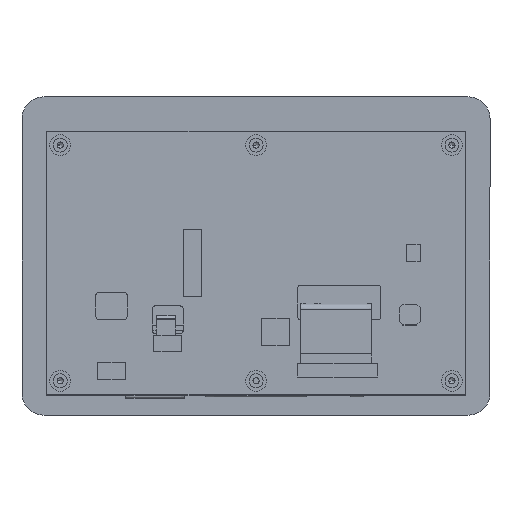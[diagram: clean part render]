
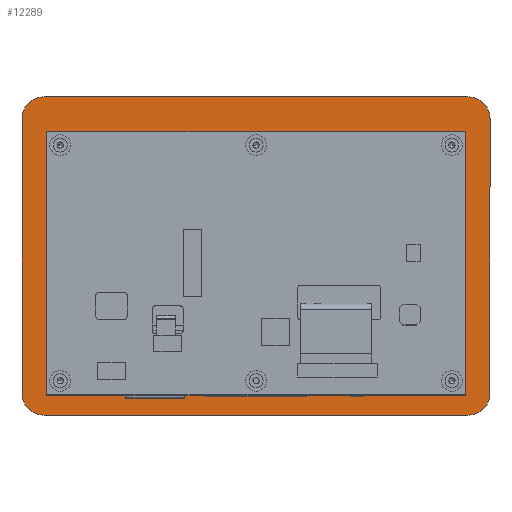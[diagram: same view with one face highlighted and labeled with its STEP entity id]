
A CAD part, top view. The second image highlights one B-rep face of the part: STEP entity #12289.
In plain terms, the highlighted planar face has unit normal (0, 0, 1) as drawn and (0, 0, -1) by its records, which use the part's own axes.
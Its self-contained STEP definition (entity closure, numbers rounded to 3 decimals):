
#815 = EDGE_LOOP ( 'NONE', ( #15179, #17503, #18424, #18813, #12644, #19951, #14381, #10123 ) ) ;
#868 = VERTEX_POINT ( 'NONE', #13297 ) ;
#1014 = VERTEX_POINT ( 'NONE', #7123 ) ;
#1214 = LINE ( 'NONE', #8232, #5828 ) ;
#1989 = DIRECTION ( 'NONE',  ( 0., 0., 1. ) ) ;
#2198 = VERTEX_POINT ( 'NONE', #16336 ) ;
#2837 = EDGE_CURVE ( 'NONE', #2198, #16696, #20875, .T. ) ;
#3294 = DIRECTION ( 'NONE',  ( -1., 0., 0. ) ) ;
#3371 = DIRECTION ( 'NONE',  ( 0., 1., 0. ) ) ;
#3409 = VECTOR ( 'NONE', #3371, 1000. ) ;
#3506 = CARTESIAN_POINT ( 'NONE',  ( -61.15, -39.77, 3.82 ) ) ;
#3603 = FACE_OUTER_BOUND ( 'NONE', #815, .T. ) ;
#4495 = CARTESIAN_POINT ( 'NONE',  ( 67.5, 39.33, 3.82 ) ) ;
#4596 = EDGE_CURVE ( 'NONE', #5675, #8835, #13222, .T. ) ;
#4661 = CARTESIAN_POINT ( 'NONE',  ( -67.5, -39.77, 3.82 ) ) ;
#4884 = PLANE ( 'NONE',  #8671 ) ;
#5675 = VERTEX_POINT ( 'NONE', #17030 ) ;
#5828 = VECTOR ( 'NONE', #20995, 1000. ) ;
#6407 = DIRECTION ( 'NONE',  ( 1., 0., 0. ) ) ;
#6796 = VERTEX_POINT ( 'NONE', #10972 ) ;
#7123 = CARTESIAN_POINT ( 'NONE',  ( 61.15, 45.68, 3.82 ) ) ;
#8181 = CIRCLE ( 'NONE', #9910, 6.35 ) ;
#8232 = CARTESIAN_POINT ( 'NONE',  ( -67.5, 39.33, 3.82 ) ) ;
#8647 = DIRECTION ( 'NONE',  ( 0., 0., 1. ) ) ;
#8671 = AXIS2_PLACEMENT_3D ( 'NONE', #3506, #1989, #13557 ) ;
#8835 = VERTEX_POINT ( 'NONE', #4495 ) ;
#9910 = AXIS2_PLACEMENT_3D ( 'NONE', #10219, #11544, #3294 ) ;
#10123 = ORIENTED_EDGE ( 'NONE', *, *, #2837, .F. ) ;
#10219 = CARTESIAN_POINT ( 'NONE',  ( -61.15, 39.33, 3.82 ) ) ;
#10481 = VECTOR ( 'NONE', #20216, 1000. ) ;
#10526 = EDGE_CURVE ( 'NONE', #16696, #5675, #13447, .T. ) ;
#10972 = CARTESIAN_POINT ( 'NONE',  ( -61.15, 45.68, 3.82 ) ) ;
#11544 = DIRECTION ( 'NONE',  ( 0., 0., 1. ) ) ;
#12227 = VERTEX_POINT ( 'NONE', #4661 ) ;
#12289 = ADVANCED_FACE ( 'NONE', ( #3603 ), #4884, .F. ) ;
#12644 = ORIENTED_EDGE ( 'NONE', *, *, #19002, .F. ) ;
#12658 = EDGE_CURVE ( 'NONE', #1014, #6796, #13633, .T. ) ;
#13122 = CARTESIAN_POINT ( 'NONE',  ( 61.15, 39.33, 3.82 ) ) ;
#13222 = LINE ( 'NONE', #14940, #3409 ) ;
#13297 = CARTESIAN_POINT ( 'NONE',  ( -67.5, 39.33, 3.82 ) ) ;
#13447 = CIRCLE ( 'NONE', #18972, 6.35 ) ;
#13557 = DIRECTION ( 'NONE',  ( 1., 0., 0. ) ) ;
#13633 = LINE ( 'NONE', #18509, #10481 ) ;
#14274 = CARTESIAN_POINT ( 'NONE',  ( -61.15, -46.12, 3.82 ) ) ;
#14381 = ORIENTED_EDGE ( 'NONE', *, *, #10526, .F. ) ;
#14940 = CARTESIAN_POINT ( 'NONE',  ( 67.5, 39.33, 3.82 ) ) ;
#15079 = DIRECTION ( 'NONE',  ( 1., 0., 0. ) ) ;
#15179 = ORIENTED_EDGE ( 'NONE', *, *, #17794, .F. ) ;
#15235 = CARTESIAN_POINT ( 'NONE',  ( 61.15, -46.12, 3.82 ) ) ;
#15241 = DIRECTION ( 'NONE',  ( 1., 0., 0. ) ) ;
#15664 = CARTESIAN_POINT ( 'NONE',  ( -61.15, -39.77, 3.82 ) ) ;
#16073 = CIRCLE ( 'NONE', #16419, 6.35 ) ;
#16336 = CARTESIAN_POINT ( 'NONE',  ( -61.15, -46.12, 3.82 ) ) ;
#16419 = AXIS2_PLACEMENT_3D ( 'NONE', #13122, #17867, #6407 ) ;
#16690 = AXIS2_PLACEMENT_3D ( 'NONE', #15664, #8647, #15241 ) ;
#16696 = VERTEX_POINT ( 'NONE', #15235 ) ;
#17030 = CARTESIAN_POINT ( 'NONE',  ( 67.5, -39.77, 3.82 ) ) ;
#17503 = ORIENTED_EDGE ( 'NONE', *, *, #20723, .F. ) ;
#17512 = DIRECTION ( 'NONE',  ( 1., 0., 0. ) ) ;
#17794 = EDGE_CURVE ( 'NONE', #12227, #2198, #20483, .T. ) ;
#17867 = DIRECTION ( 'NONE',  ( 0., 0., 1. ) ) ;
#18424 = ORIENTED_EDGE ( 'NONE', *, *, #19938, .F. ) ;
#18449 = CARTESIAN_POINT ( 'NONE',  ( 61.15, -39.77, 3.82 ) ) ;
#18509 = CARTESIAN_POINT ( 'NONE',  ( -61.15, 45.68, 3.82 ) ) ;
#18552 = DIRECTION ( 'NONE',  ( 0., 0., 1. ) ) ;
#18813 = ORIENTED_EDGE ( 'NONE', *, *, #12658, .F. ) ;
#18972 = AXIS2_PLACEMENT_3D ( 'NONE', #18449, #18552, #15079 ) ;
#19002 = EDGE_CURVE ( 'NONE', #8835, #1014, #16073, .T. ) ;
#19730 = VECTOR ( 'NONE', #17512, 1000. ) ;
#19938 = EDGE_CURVE ( 'NONE', #6796, #868, #8181, .T. ) ;
#19951 = ORIENTED_EDGE ( 'NONE', *, *, #4596, .F. ) ;
#20216 = DIRECTION ( 'NONE',  ( -1., 0., 0. ) ) ;
#20483 = CIRCLE ( 'NONE', #16690, 6.35 ) ;
#20723 = EDGE_CURVE ( 'NONE', #868, #12227, #1214, .T. ) ;
#20875 = LINE ( 'NONE', #14274, #19730 ) ;
#20995 = DIRECTION ( 'NONE',  ( 0., -1., 0. ) ) ;
